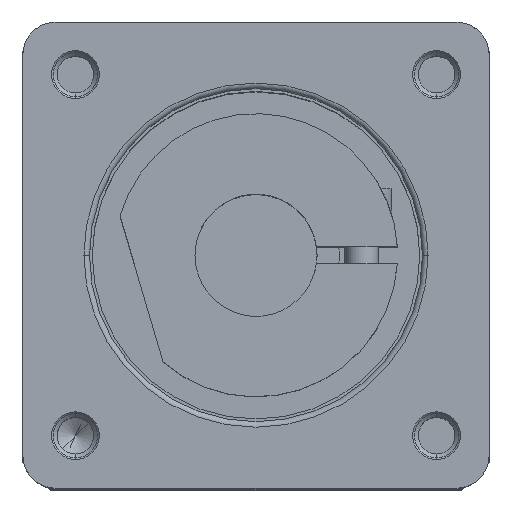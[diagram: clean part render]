
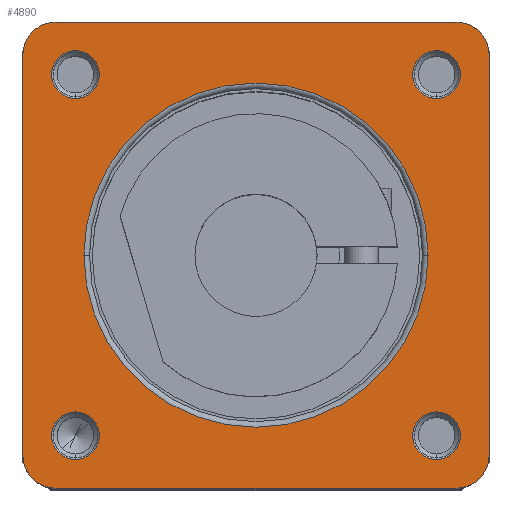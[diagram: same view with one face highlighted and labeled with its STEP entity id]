
A CAD part, top view. The second image highlights one B-rep face of the part: STEP entity #4890.
In plain terms, the highlighted planar face has unit normal (0, 0, 1) as drawn and (0, 1, 0) by its records, which use the part's own axes.
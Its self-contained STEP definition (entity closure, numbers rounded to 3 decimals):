
#3655=CARTESIAN_POINT('',(-18.,29.5,-18.));
#3656=DIRECTION('',(0.,1.,0.));
#3657=DIRECTION('',(0.,0.,-1.));
#3658=AXIS2_PLACEMENT_3D('',#3655,#3656,#3657);
#3660=DIRECTION('',(-1.,0.,0.));
#3661=VECTOR('',#3660,36.);
#3662=CARTESIAN_POINT('',(18.,29.5,-21.));
#3663=LINE('',#3662,#3661);
#3664=CARTESIAN_POINT('',(18.,29.5,-18.));
#3665=DIRECTION('',(0.,1.,0.));
#3666=DIRECTION('',(1.,0.,0.));
#3667=AXIS2_PLACEMENT_3D('',#3664,#3665,#3666);
#3669=DIRECTION('',(0.,0.,-1.));
#3670=VECTOR('',#3669,36.);
#3671=CARTESIAN_POINT('',(21.,29.5,18.));
#3672=LINE('',#3671,#3670);
#3673=CARTESIAN_POINT('',(18.,29.5,18.));
#3674=DIRECTION('',(0.,1.,0.));
#3675=DIRECTION('',(0.,0.,1.));
#3676=AXIS2_PLACEMENT_3D('',#3673,#3674,#3675);
#3678=DIRECTION('',(1.,0.,0.));
#3679=VECTOR('',#3678,36.);
#3680=CARTESIAN_POINT('',(-18.,29.5,21.));
#3681=LINE('',#3680,#3679);
#3682=CARTESIAN_POINT('',(-18.,29.5,18.));
#3683=DIRECTION('',(0.,1.,0.));
#3684=DIRECTION('',(-1.,0.,0.));
#3685=AXIS2_PLACEMENT_3D('',#3682,#3683,#3684);
#3687=DIRECTION('',(0.,0.,1.));
#3688=VECTOR('',#3687,36.);
#3689=CARTESIAN_POINT('',(-21.,29.5,-18.));
#3690=LINE('',#3689,#3688);
#3691=CARTESIAN_POINT('',(-16.263,29.5,16.263));
#3692=DIRECTION('',(0.,-1.,0.));
#3693=DIRECTION('',(1.,0.,0.));
#3694=AXIS2_PLACEMENT_3D('',#3691,#3692,#3693);
#3701=CARTESIAN_POINT('',(-16.263,29.5,16.263));
#3702=DIRECTION('',(0.,-1.,0.));
#3703=DIRECTION('',(-1.,0.,0.));
#3704=AXIS2_PLACEMENT_3D('',#3701,#3702,#3703);
#3737=CARTESIAN_POINT('',(-16.263,29.5,-16.263));
#3738=DIRECTION('',(0.,-1.,0.));
#3739=DIRECTION('',(1.,0.,0.));
#3740=AXIS2_PLACEMENT_3D('',#3737,#3738,#3739);
#3747=CARTESIAN_POINT('',(-16.263,29.5,-16.263));
#3748=DIRECTION('',(0.,-1.,0.));
#3749=DIRECTION('',(-1.,0.,0.));
#3750=AXIS2_PLACEMENT_3D('',#3747,#3748,#3749);
#3783=CARTESIAN_POINT('',(16.263,29.5,-16.263));
#3784=DIRECTION('',(0.,-1.,0.));
#3785=DIRECTION('',(1.,0.,0.));
#3786=AXIS2_PLACEMENT_3D('',#3783,#3784,#3785);
#3793=CARTESIAN_POINT('',(16.263,29.5,-16.263));
#3794=DIRECTION('',(0.,-1.,0.));
#3795=DIRECTION('',(-1.,0.,0.));
#3796=AXIS2_PLACEMENT_3D('',#3793,#3794,#3795);
#3833=CARTESIAN_POINT('',(16.263,29.5,16.263));
#3834=DIRECTION('',(0.,-1.,0.));
#3835=DIRECTION('',(1.,0.,0.));
#3836=AXIS2_PLACEMENT_3D('',#3833,#3834,#3835);
#3843=CARTESIAN_POINT('',(16.263,29.5,16.263));
#3844=DIRECTION('',(0.,-1.,0.));
#3845=DIRECTION('',(-1.,0.,0.));
#3846=AXIS2_PLACEMENT_3D('',#3843,#3844,#3845);
#3897=CARTESIAN_POINT('',(0.,29.5,0.));
#3898=DIRECTION('',(0.,-1.,0.));
#3899=DIRECTION('',(0.,0.,1.));
#3900=AXIS2_PLACEMENT_3D('',#3897,#3898,#3899);
#3912=CARTESIAN_POINT('',(0.,29.5,0.));
#3913=DIRECTION('',(0.,-1.,0.));
#3914=DIRECTION('',(0.,0.,-1.));
#3915=AXIS2_PLACEMENT_3D('',#3912,#3913,#3914);
#4117=CARTESIAN_POINT('',(-21.,29.5,-18.));
#4118=CARTESIAN_POINT('',(-21.,29.5,18.));
#4119=VERTEX_POINT('',#4117);
#4120=VERTEX_POINT('',#4118);
#4121=CARTESIAN_POINT('',(-18.,29.5,21.));
#4122=CARTESIAN_POINT('',(18.,29.5,21.));
#4123=VERTEX_POINT('',#4121);
#4124=VERTEX_POINT('',#4122);
#4125=CARTESIAN_POINT('',(21.,29.5,18.));
#4126=CARTESIAN_POINT('',(21.,29.5,-18.));
#4127=VERTEX_POINT('',#4125);
#4128=VERTEX_POINT('',#4126);
#4129=CARTESIAN_POINT('',(18.,29.5,-21.));
#4130=CARTESIAN_POINT('',(-18.,29.5,-21.));
#4131=VERTEX_POINT('',#4129);
#4132=VERTEX_POINT('',#4130);
#4215=CARTESIAN_POINT('',(18.413,29.5,16.263));
#4216=CARTESIAN_POINT('',(14.113,29.5,16.263));
#4217=VERTEX_POINT('',#4215);
#4218=VERTEX_POINT('',#4216);
#4223=CARTESIAN_POINT('',(-14.113,29.5,16.263));
#4224=CARTESIAN_POINT('',(-18.413,29.5,16.263));
#4225=VERTEX_POINT('',#4223);
#4226=VERTEX_POINT('',#4224);
#4231=CARTESIAN_POINT('',(-14.113,29.5,-16.263));
#4232=CARTESIAN_POINT('',(-18.413,29.5,-16.263));
#4233=VERTEX_POINT('',#4231);
#4234=VERTEX_POINT('',#4232);
#4239=CARTESIAN_POINT('',(18.413,29.5,-16.263));
#4240=CARTESIAN_POINT('',(14.113,29.5,-16.263));
#4241=VERTEX_POINT('',#4239);
#4242=VERTEX_POINT('',#4240);
#4287=CARTESIAN_POINT('',(0.,29.5,15.5));
#4288=CARTESIAN_POINT('',(0.,29.5,-15.5));
#4289=VERTEX_POINT('',#4287);
#4290=VERTEX_POINT('',#4288);
#4844=CARTESIAN_POINT('',(0.,29.5,0.));
#4845=DIRECTION('',(0.,-1.,0.));
#4846=DIRECTION('',(-1.,0.,0.));
#4847=AXIS2_PLACEMENT_3D('',#4844,#4845,#4846);
#4848=PLANE('',#4847);
#4849=ORIENTED_EDGE('',*,*,#4742,.F.);
#4850=ORIENTED_EDGE('',*,*,#4760,.F.);
#4851=ORIENTED_EDGE('',*,*,#4838,.F.);
#4852=ORIENTED_EDGE('',*,*,#4547,.F.);
#4853=ORIENTED_EDGE('',*,*,#4566,.F.);
#4854=ORIENTED_EDGE('',*,*,#4582,.F.);
#4856=ORIENTED_EDGE('',*,*,#4855,.F.);
#4857=ORIENTED_EDGE('',*,*,#4667,.F.);
#4858=EDGE_LOOP('',(#4849,#4850,#4851,#4852,#4853,#4854,#4856,#4857));
#4859=FACE_OUTER_BOUND('',#4858,.F.);
#4861=ORIENTED_EDGE('',*,*,#4860,.F.);
#4863=ORIENTED_EDGE('',*,*,#4862,.F.);
#4864=EDGE_LOOP('',(#4861,#4863));
#4865=FACE_BOUND('',#4864,.F.);
#4867=ORIENTED_EDGE('',*,*,#4866,.F.);
#4869=ORIENTED_EDGE('',*,*,#4868,.F.);
#4870=EDGE_LOOP('',(#4867,#4869));
#4871=FACE_BOUND('',#4870,.F.);
#4873=ORIENTED_EDGE('',*,*,#4872,.F.);
#4875=ORIENTED_EDGE('',*,*,#4874,.F.);
#4876=EDGE_LOOP('',(#4873,#4875));
#4877=FACE_BOUND('',#4876,.F.);
#4879=ORIENTED_EDGE('',*,*,#4878,.F.);
#4881=ORIENTED_EDGE('',*,*,#4880,.F.);
#4882=EDGE_LOOP('',(#4879,#4881));
#4883=FACE_BOUND('',#4882,.F.);
#4885=ORIENTED_EDGE('',*,*,#4884,.F.);
#4887=ORIENTED_EDGE('',*,*,#4886,.F.);
#4888=EDGE_LOOP('',(#4885,#4887));
#4889=FACE_BOUND('',#4888,.F.);
#4890=ADVANCED_FACE('',(#4859,#4865,#4871,#4877,#4883,#4889),#4848,.F.);
#3659=CIRCLE('',#3658,3.);
#3668=CIRCLE('',#3667,3.);
#3677=CIRCLE('',#3676,3.);
#3686=CIRCLE('',#3685,3.);
#3695=CIRCLE('',#3694,2.15);
#3705=CIRCLE('',#3704,2.15);
#3741=CIRCLE('',#3740,2.15);
#3751=CIRCLE('',#3750,2.15);
#3787=CIRCLE('',#3786,2.15);
#3797=CIRCLE('',#3796,2.15);
#3837=CIRCLE('',#3836,2.15);
#3847=CIRCLE('',#3846,2.15);
#3901=CIRCLE('',#3900,15.5);
#3916=CIRCLE('',#3915,15.5);
#4547=EDGE_CURVE('',#4127,#4128,#3672,.T.);
#4566=EDGE_CURVE('',#4124,#4127,#3677,.T.);
#4582=EDGE_CURVE('',#4123,#4124,#3681,.T.);
#4667=EDGE_CURVE('',#4119,#4120,#3690,.T.);
#4742=EDGE_CURVE('',#4132,#4119,#3659,.T.);
#4760=EDGE_CURVE('',#4131,#4132,#3663,.T.);
#4838=EDGE_CURVE('',#4128,#4131,#3668,.T.);
#4855=EDGE_CURVE('',#4120,#4123,#3686,.T.);
#4860=EDGE_CURVE('',#4225,#4226,#3695,.T.);
#4862=EDGE_CURVE('',#4226,#4225,#3705,.T.);
#4866=EDGE_CURVE('',#4233,#4234,#3741,.T.);
#4868=EDGE_CURVE('',#4234,#4233,#3751,.T.);
#4872=EDGE_CURVE('',#4241,#4242,#3787,.T.);
#4874=EDGE_CURVE('',#4242,#4241,#3797,.T.);
#4878=EDGE_CURVE('',#4217,#4218,#3837,.T.);
#4880=EDGE_CURVE('',#4218,#4217,#3847,.T.);
#4884=EDGE_CURVE('',#4289,#4290,#3901,.T.);
#4886=EDGE_CURVE('',#4290,#4289,#3916,.T.);
